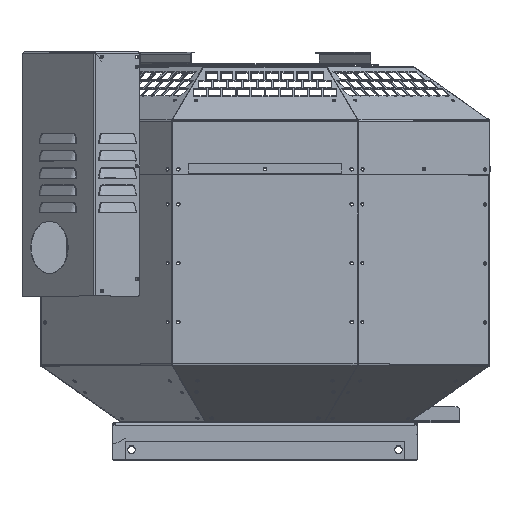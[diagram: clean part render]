
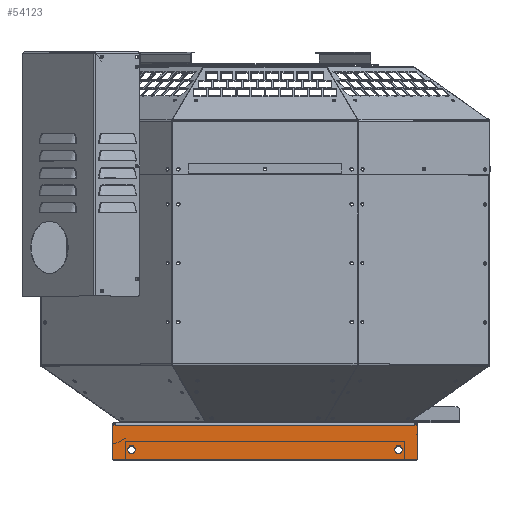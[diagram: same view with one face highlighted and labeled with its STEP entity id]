
A CAD part, top view. The second image highlights one B-rep face of the part: STEP entity #54123.
In plain terms, the highlighted planar face has unit normal (0, 0, 1).
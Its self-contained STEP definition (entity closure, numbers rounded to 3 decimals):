
#980 = ORIENTED_EDGE ( 'NONE', *, *, #26999, .F. ) ;
#1076 = EDGE_CURVE ( 'NONE', #35683, #10431, #4274, .T. ) ;
#1171 = DIRECTION ( 'NONE',  ( 0., 0., 1. ) ) ;
#1426 = CARTESIAN_POINT ( 'NONE',  ( -181.525, -41.682, 170.3 ) ) ;
#1696 = CARTESIAN_POINT ( 'NONE',  ( 181.525, -3.632, 170.3 ) ) ;
#2754 = LINE ( 'NONE', #28720, #67872 ) ;
#4274 = LINE ( 'NONE', #19731, #67419 ) ;
#5091 = VERTEX_POINT ( 'NONE', #46335 ) ;
#5712 = DIRECTION ( 'NONE',  ( 0., -1., 0. ) ) ;
#5951 = DIRECTION ( 'NONE',  ( 0., -1., 0. ) ) ;
#6986 = CIRCLE ( 'NONE', #33960, 4.5 ) ;
#7528 = VERTEX_POINT ( 'NONE', #43113 ) ;
#9038 = VERTEX_POINT ( 'NONE', #1426 ) ;
#9272 = EDGE_CURVE ( 'NONE', #7528, #72269, #22737, .T. ) ;
#10050 = DIRECTION ( 'NONE',  ( 0., 0., 1. ) ) ;
#10235 = DIRECTION ( 'NONE',  ( -1., 0., 0. ) ) ;
#10431 = VERTEX_POINT ( 'NONE', #21716 ) ;
#10694 = CARTESIAN_POINT ( 'NONE',  ( 178.125, -3.632, 170.3 ) ) ;
#11847 = DIRECTION ( 'NONE',  ( -1., 0., 0. ) ) ;
#12022 = VERTEX_POINT ( 'NONE', #44795 ) ;
#12113 = DIRECTION ( 'NONE',  ( 1., 0., 0. ) ) ;
#13447 = DIRECTION ( 'NONE',  ( 0., -1., 0. ) ) ;
#17551 = PLANE ( 'NONE',  #24476 ) ;
#17774 = DIRECTION ( 'NONE',  ( 0., 0., 1. ) ) ;
#19280 = AXIS2_PLACEMENT_3D ( 'NONE', #71798, #33914, #78099 ) ;
#19480 = EDGE_LOOP ( 'NONE', ( #51820, #57835 ) ) ;
#19731 = CARTESIAN_POINT ( 'NONE',  ( 169.025, -3.632, 170.3 ) ) ;
#21685 = EDGE_LOOP ( 'NONE', ( #980, #64280, #40668, #63672, #49801, #36793, #59970, #42783 ) ) ;
#21716 = CARTESIAN_POINT ( 'NONE',  ( 181.525, -3.632, 170.3 ) ) ;
#22737 = CIRCLE ( 'NONE', #81755, 4.5 ) ;
#23817 = VECTOR ( 'NONE', #13447, 1000. ) ;
#23889 = DIRECTION ( 'NONE',  ( 0., 0., 1. ) ) ;
#24274 = LINE ( 'NONE', #1696, #53913 ) ;
#24476 = AXIS2_PLACEMENT_3D ( 'NONE', #61102, #23889, #68008 ) ;
#26258 = CARTESIAN_POINT ( 'NONE',  ( -181.525, -3.632, 170.3 ) ) ;
#26999 = EDGE_CURVE ( 'NONE', #50028, #73126, #71593, .T. ) ;
#27102 = FACE_OUTER_BOUND ( 'NONE', #21685, .T. ) ;
#28720 = CARTESIAN_POINT ( 'NONE',  ( -169.025, -3.632, 170.3 ) ) ;
#33126 = DIRECTION ( 'NONE',  ( 0., 0., 1. ) ) ;
#33914 = DIRECTION ( 'NONE',  ( 0., 0., 1. ) ) ;
#33960 = AXIS2_PLACEMENT_3D ( 'NONE', #55591, #17774, #61864 ) ;
#34308 = AXIS2_PLACEMENT_3D ( 'NONE', #47811, #10050, #54223 ) ;
#34510 = CIRCLE ( 'NONE', #46296, 4.5 ) ;
#35683 = VERTEX_POINT ( 'NONE', #10694 ) ;
#36793 = ORIENTED_EDGE ( 'NONE', *, *, #77687, .T. ) ;
#38608 = VERTEX_POINT ( 'NONE', #57669 ) ;
#39435 = DIRECTION ( 'NONE',  ( 0., -1., 0. ) ) ;
#40668 = ORIENTED_EDGE ( 'NONE', *, *, #53299, .F. ) ;
#40981 = AXIS2_PLACEMENT_3D ( 'NONE', #81298, #43458, #5712 ) ;
#41595 = EDGE_CURVE ( 'NONE', #9038, #73126, #42918, .T. ) ;
#41868 = DIRECTION ( 'NONE',  ( -1., 0., 0. ) ) ;
#42268 = ORIENTED_EDGE ( 'NONE', *, *, #72973, .F. ) ;
#42524 = VECTOR ( 'NONE', #41868, 1000. ) ;
#42783 = ORIENTED_EDGE ( 'NONE', *, *, #41595, .T. ) ;
#42918 = CIRCLE ( 'NONE', #19280, 3. ) ;
#43113 = CARTESIAN_POINT ( 'NONE',  ( 158.5, -28.232, 170.3 ) ) ;
#43337 = CIRCLE ( 'NONE', #34308, 3. ) ;
#43458 = DIRECTION ( 'NONE',  ( 0., 0., 1. ) ) ;
#44557 = ORIENTED_EDGE ( 'NONE', *, *, #9272, .F. ) ;
#44648 = EDGE_CURVE ( 'NONE', #12022, #38608, #34510, .T. ) ;
#44795 = CARTESIAN_POINT ( 'NONE',  ( -158.5, -37.232, 170.3 ) ) ;
#45340 = CARTESIAN_POINT ( 'NONE',  ( 178.525, -44.682, 170.3 ) ) ;
#46296 = AXIS2_PLACEMENT_3D ( 'NONE', #70978, #33126, #77307 ) ;
#46335 = CARTESIAN_POINT ( 'NONE',  ( 181.525, -41.682, 170.3 ) ) ;
#46812 = CARTESIAN_POINT ( 'NONE',  ( -169.025, -3.632, 170.3 ) ) ;
#47811 = CARTESIAN_POINT ( 'NONE',  ( 178.525, -41.682, 170.3 ) ) ;
#48002 = CARTESIAN_POINT ( 'NONE',  ( -169.025, -44.682, 170.3 ) ) ;
#49158 = EDGE_CURVE ( 'NONE', #35683, #50120, #78114, .T. ) ;
#49801 = ORIENTED_EDGE ( 'NONE', *, *, #49158, .T. ) ;
#50028 = VERTEX_POINT ( 'NONE', #45340 ) ;
#50120 = VERTEX_POINT ( 'NONE', #77652 ) ;
#50298 = EDGE_CURVE ( 'NONE', #50028, #5091, #43337, .T. ) ;
#51820 = ORIENTED_EDGE ( 'NONE', *, *, #44648, .F. ) ;
#51839 = CARTESIAN_POINT ( 'NONE',  ( 158.5, -32.732, 170.3 ) ) ;
#52793 = CARTESIAN_POINT ( 'NONE',  ( 158.5, -37.232, 170.3 ) ) ;
#53299 = EDGE_CURVE ( 'NONE', #10431, #5091, #24274, .T. ) ;
#53842 = CIRCLE ( 'NONE', #40981, 4.5 ) ;
#53913 = VECTOR ( 'NONE', #39435, 1000. ) ;
#54123 = ADVANCED_FACE ( 'NONE', ( #77446, #58673, #27102 ), #17551, .T. ) ;
#54223 = DIRECTION ( 'NONE',  ( 0., -1., 0. ) ) ;
#54829 = VECTOR ( 'NONE', #10235, 1000. ) ;
#55591 = CARTESIAN_POINT ( 'NONE',  ( -158.5, -32.732, 170.3 ) ) ;
#57669 = CARTESIAN_POINT ( 'NONE',  ( -158.5, -28.232, 170.3 ) ) ;
#57835 = ORIENTED_EDGE ( 'NONE', *, *, #69075, .F. ) ;
#58673 = FACE_BOUND ( 'NONE', #19480, .T. ) ;
#59317 = LINE ( 'NONE', #76335, #23817 ) ;
#59970 = ORIENTED_EDGE ( 'NONE', *, *, #64991, .T. ) ;
#61102 = CARTESIAN_POINT ( 'NONE',  ( -169.025, -1.732, 170.3 ) ) ;
#61864 = DIRECTION ( 'NONE',  ( 0., -1., 0. ) ) ;
#62196 = EDGE_LOOP ( 'NONE', ( #42268, #44557 ) ) ;
#63672 = ORIENTED_EDGE ( 'NONE', *, *, #1076, .F. ) ;
#64264 = VERTEX_POINT ( 'NONE', #26258 ) ;
#64280 = ORIENTED_EDGE ( 'NONE', *, *, #50298, .T. ) ;
#64991 = EDGE_CURVE ( 'NONE', #64264, #9038, #59317, .T. ) ;
#67419 = VECTOR ( 'NONE', #12113, 1000. ) ;
#67872 = VECTOR ( 'NONE', #11847, 1000. ) ;
#68008 = DIRECTION ( 'NONE',  ( 0., -1., 0. ) ) ;
#69075 = EDGE_CURVE ( 'NONE', #38608, #12022, #6986, .T. ) ;
#70223 = CARTESIAN_POINT ( 'NONE',  ( -178.525, -44.682, 170.3 ) ) ;
#70978 = CARTESIAN_POINT ( 'NONE',  ( -158.5, -32.732, 170.3 ) ) ;
#71593 = LINE ( 'NONE', #48002, #54829 ) ;
#71798 = CARTESIAN_POINT ( 'NONE',  ( -178.525, -41.682, 170.3 ) ) ;
#72269 = VERTEX_POINT ( 'NONE', #52793 ) ;
#72973 = EDGE_CURVE ( 'NONE', #72269, #7528, #53842, .T. ) ;
#73126 = VERTEX_POINT ( 'NONE', #70223 ) ;
#76335 = CARTESIAN_POINT ( 'NONE',  ( -181.525, -3.632, 170.3 ) ) ;
#77307 = DIRECTION ( 'NONE',  ( 0., -1., 0. ) ) ;
#77446 = FACE_BOUND ( 'NONE', #62196, .T. ) ;
#77652 = CARTESIAN_POINT ( 'NONE',  ( -178.125, -3.632, 170.3 ) ) ;
#77687 = EDGE_CURVE ( 'NONE', #50120, #64264, #2754, .T. ) ;
#78099 = DIRECTION ( 'NONE',  ( 0., -1., 0. ) ) ;
#78114 = LINE ( 'NONE', #46812, #42524 ) ;
#81298 = CARTESIAN_POINT ( 'NONE',  ( 158.5, -32.732, 170.3 ) ) ;
#81755 = AXIS2_PLACEMENT_3D ( 'NONE', #51839, #1171, #5951 ) ;
